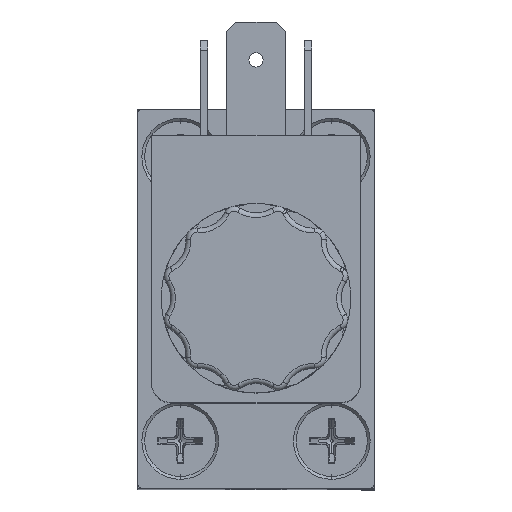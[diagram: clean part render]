
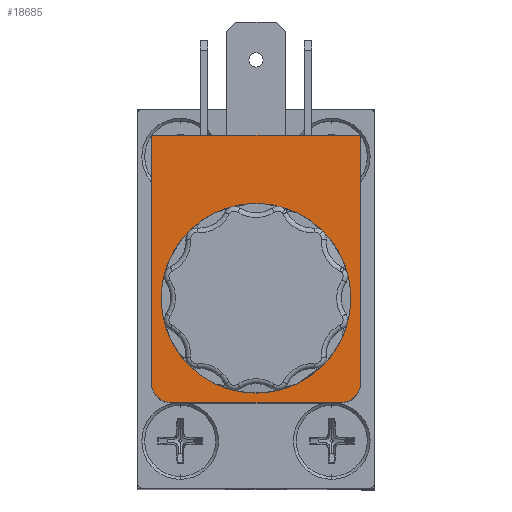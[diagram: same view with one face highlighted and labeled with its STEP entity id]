
A CAD part, top view. The second image highlights one B-rep face of the part: STEP entity #18685.
In plain terms, the highlighted planar face has unit normal (0, 0, 1).
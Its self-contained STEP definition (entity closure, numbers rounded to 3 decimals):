
#6315 = CARTESIAN_POINT ( 'NONE',  ( 11., -17.2, 30.5 ) ) ;
#6332 = CARTESIAN_POINT ( 'NONE',  ( 9., 11., 30.5 ) ) ;
#6346 = CARTESIAN_POINT ( 'NONE',  ( 8.3, 0., 30.5 ) ) ;
#6447 = CARTESIAN_POINT ( 'NONE',  ( -10.414, 10.414, 30.5 ) ) ;
#6484 = CARTESIAN_POINT ( 'NONE',  ( 10.414, 10.414, 30.5 ) ) ;
#13590 = VERTEX_POINT ( 'NONE', #23894 ) ;
#13667 = VERTEX_POINT ( 'NONE', #23971 ) ;
#13735 = VERTEX_POINT ( 'NONE', #24039 ) ;
#13772 = VERTEX_POINT ( 'NONE', #24076 ) ;
#13809 = VERTEX_POINT ( 'NONE', #24113 ) ;
#14344 = EDGE_CURVE ( 'NONE', #13809, #13772, #17215, .T. ) ;
#14349 = EDGE_CURVE ( 'NONE', #23070, #23222, #17226, .T. ) ;
#14360 = EDGE_CURVE ( 'NONE', #13772, #23185, #17241, .T. ) ;
#14383 = EDGE_CURVE ( 'NONE', #13590, #23070, #17266, .T. ) ;
#14385 = EDGE_CURVE ( 'NONE', #13667, #23084, #17278, .T. ) ;
#14401 = EDGE_CURVE ( 'NONE', #13735, #23051, #17298, .T. ) ;
#14421 = EDGE_CURVE ( 'NONE', #23051, #13809, #17321, .T. ) ;
#16795 = ORIENTED_EDGE ( 'NONE', *, *, #14349, .F. ) ;
#16796 = ORIENTED_EDGE ( 'NONE', *, *, #14383, .F. ) ;
#16797 = ORIENTED_EDGE ( 'NONE', *, *, #17612, .F. ) ;
#16798 = ORIENTED_EDGE ( 'NONE', *, *, #14360, .F. ) ;
#16799 = ORIENTED_EDGE ( 'NONE', *, *, #14344, .F. ) ;
#16800 = ORIENTED_EDGE ( 'NONE', *, *, #14421, .F. ) ;
#16801 = ORIENTED_EDGE ( 'NONE', *, *, #14401, .F. ) ;
#16802 = ORIENTED_EDGE ( 'NONE', *, *, #17611, .F. ) ;
#16803 = ORIENTED_EDGE ( 'NONE', *, *, #14385, .T. ) ;
#16804 = ORIENTED_EDGE ( 'NONE', *, *, #17588, .T. ) ;
#17215 = LINE ( 'NONE', #24227, #17216 ) ;
#17216 = VECTOR ( 'NONE', #24228, 1000. ) ;
#17226 = CIRCLE ( 'NONE', #17632, 2. ) ;
#17241 = CIRCLE ( 'NONE', #17637, 2. ) ;
#17266 = LINE ( 'NONE', #24326, #17272 ) ;
#17272 = VECTOR ( 'NONE', #24338, 1000. ) ;
#17278 = CIRCLE ( 'NONE', #17644, 8.3 ) ;
#17298 = LINE ( 'NONE', #24383, #17299 ) ;
#17299 = VECTOR ( 'NONE', #24384, 1000. ) ;
#17316 = VECTOR ( 'NONE', #24450, 1000. ) ;
#17321 = LINE ( 'NONE', #24444, #17316 ) ;
#17588 = EDGE_CURVE ( 'NONE', #23084, #13667, #21222, .T. ) ;
#17611 = EDGE_CURVE ( 'NONE', #23222, #13735, #21270, .T. ) ;
#17612 = EDGE_CURVE ( 'NONE', #23185, #13590, #21273, .T. ) ;
#17632 = AXIS2_PLACEMENT_3D ( 'NONE', #24239, #24241, #24242 ) ;
#17637 = AXIS2_PLACEMENT_3D ( 'NONE', #24272, #24274, #24275 ) ;
#17644 = AXIS2_PLACEMENT_3D ( 'NONE', #24337, #24341, #24342 ) ;
#17850 = AXIS2_PLACEMENT_3D ( 'NONE', #22262, #22264, #22265 ) ;
#17854 = AXIS2_PLACEMENT_3D ( 'NONE', #22304, #22320, #22321 ) ;
#17856 = AXIS2_PLACEMENT_3D ( 'NONE', #22306, #22317, #22318 ) ;
#17975 = AXIS2_PLACEMENT_3D ( 'NONE', #22648, #22660, #22661 ) ;
#18685 = ADVANCED_FACE ( 'NONE', ( #21454, #21463 ), #22652, .T. ) ;
#21222 = CIRCLE ( 'NONE', #17850, 8.3 ) ;
#21270 = CIRCLE ( 'NONE', #17856, 2. ) ;
#21273 = CIRCLE ( 'NONE', #17854, 2. ) ;
#21454 = FACE_OUTER_BOUND ( 'NONE', #25160, .T. ) ;
#21463 = FACE_BOUND ( 'NONE', #25154, .T. ) ;
#22262 = CARTESIAN_POINT ( 'NONE',  ( 0., 0., 30.5 ) ) ;
#22264 = DIRECTION ( 'NONE',  ( 0., 0., -1. ) ) ;
#22265 = DIRECTION ( 'NONE',  ( -1., 0., 0. ) ) ;
#22304 = CARTESIAN_POINT ( 'NONE',  ( -9., 9., 30.5 ) ) ;
#22306 = CARTESIAN_POINT ( 'NONE',  ( 9., 9., 30.5 ) ) ;
#22317 = DIRECTION ( 'NONE',  ( 0., 0., -1. ) ) ;
#22318 = DIRECTION ( 'NONE',  ( 0.707, 0.707, 0. ) ) ;
#22320 = DIRECTION ( 'NONE',  ( 0., 0., -1. ) ) ;
#22321 = DIRECTION ( 'NONE',  ( -0.707, 0.707, 0. ) ) ;
#22648 = CARTESIAN_POINT ( 'NONE',  ( 0., -3.1, 30.5 ) ) ;
#22652 = PLANE ( 'NONE',  #17975 ) ;
#22660 = DIRECTION ( 'NONE',  ( 0., 0., 1. ) ) ;
#22661 = DIRECTION ( 'NONE',  ( 0.707, 0.707, 0. ) ) ;
#23051 = VERTEX_POINT ( 'NONE', #6315 ) ;
#23070 = VERTEX_POINT ( 'NONE', #6332 ) ;
#23084 = VERTEX_POINT ( 'NONE', #6346 ) ;
#23185 = VERTEX_POINT ( 'NONE', #6447 ) ;
#23222 = VERTEX_POINT ( 'NONE', #6484 ) ;
#23894 = CARTESIAN_POINT ( 'NONE',  ( -9., 11., 30.5 ) ) ;
#23971 = CARTESIAN_POINT ( 'NONE',  ( -8.3, 0., 30.5 ) ) ;
#24039 = CARTESIAN_POINT ( 'NONE',  ( 11., 9., 30.5 ) ) ;
#24076 = CARTESIAN_POINT ( 'NONE',  ( -11., 9., 30.5 ) ) ;
#24113 = CARTESIAN_POINT ( 'NONE',  ( -11., -17.2, 30.5 ) ) ;
#24227 = CARTESIAN_POINT ( 'NONE',  ( -11., -17.2, 30.5 ) ) ;
#24228 = DIRECTION ( 'NONE',  ( 0., 1., 0. ) ) ;
#24239 = CARTESIAN_POINT ( 'NONE',  ( 9., 9., 30.5 ) ) ;
#24241 = DIRECTION ( 'NONE',  ( 0., 0., -1. ) ) ;
#24242 = DIRECTION ( 'NONE',  ( 0.707, 0.707, 0. ) ) ;
#24272 = CARTESIAN_POINT ( 'NONE',  ( -9., 9., 30.5 ) ) ;
#24274 = DIRECTION ( 'NONE',  ( 0., 0., -1. ) ) ;
#24275 = DIRECTION ( 'NONE',  ( -0.707, 0.707, 0. ) ) ;
#24326 = CARTESIAN_POINT ( 'NONE',  ( -9., 11., 30.5 ) ) ;
#24337 = CARTESIAN_POINT ( 'NONE',  ( 0., 0., 30.5 ) ) ;
#24338 = DIRECTION ( 'NONE',  ( 1., 0., 0. ) ) ;
#24341 = DIRECTION ( 'NONE',  ( 0., 0., -1. ) ) ;
#24342 = DIRECTION ( 'NONE',  ( -1., 0., 0. ) ) ;
#24383 = CARTESIAN_POINT ( 'NONE',  ( 11., 9., 30.5 ) ) ;
#24384 = DIRECTION ( 'NONE',  ( 0., -1., 0. ) ) ;
#24444 = CARTESIAN_POINT ( 'NONE',  ( 11., -17.2, 30.5 ) ) ;
#24450 = DIRECTION ( 'NONE',  ( -1., 0., 0. ) ) ;
#25154 = EDGE_LOOP ( 'NONE', ( #16803, #16804 ) ) ;
#25160 = EDGE_LOOP ( 'NONE', ( #16795, #16796, #16797, #16798, #16799, #16800, #16801, #16802 ) ) ;
